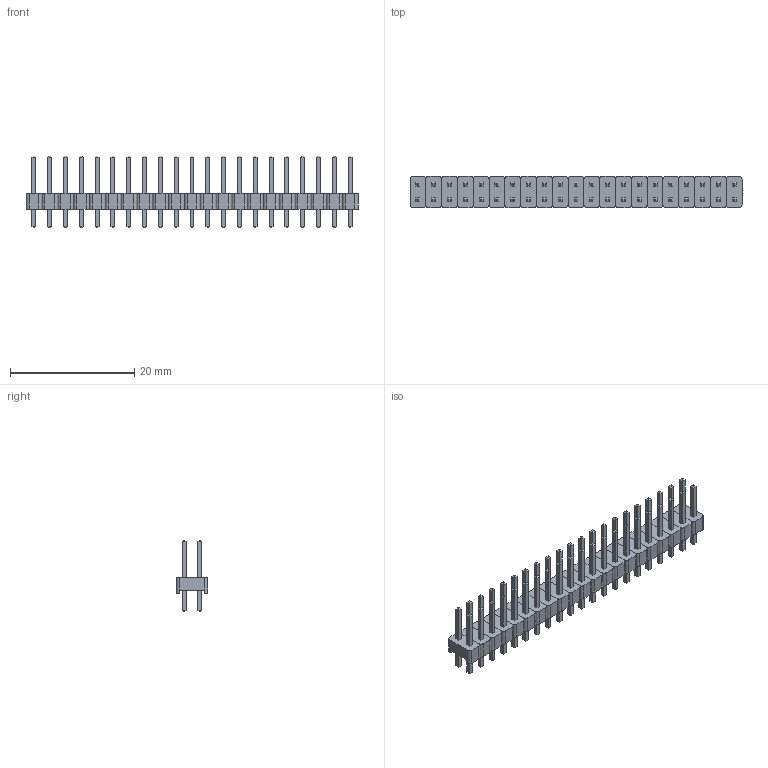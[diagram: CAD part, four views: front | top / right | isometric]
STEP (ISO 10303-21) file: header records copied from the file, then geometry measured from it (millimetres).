
FILE_DESCRIPTION(('FreeCAD Model'),'2;1');
FILE_NAME('Open CASCADE Shape Model','2022-04-06T16:01:37',( 'Engenharia Metaltex'),('Metaltex'), 'Open CASCADE STEP processor 7.5','FreeCAD','Unknown');
FILE_SCHEMA(('AUTOMOTIVE_DESIGN { 1 0 10303 214 1 1 1 1 }'));
Length unit declared in the file: millimetre
Products named in the file (85): BPDC; 21; Base020; Pino041; Pino042; 1; Base; Pino1; Pino2; 2; Base001; Pino003; Pino004; 3; Base002; Pino006; Pino005; 4; Base003; Pino008; Pino007; 5; Base004; Pino009; Pino010; 6; Base005; Pino012; Pino011; 7; Base006; Pino013; Pino014; 8; Base007; Pino015; Pino016; 9; Base008; Pino017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
Assembly tree (84 placements, depth 3):
  BPDC
    21
      Base020
      Pino041
      Pino042
    1
      Base
      Pino1
      Pino2
    2
      Base001
      Pino003
      Pino004
    3
      Base002
      Pino006
      Pino005
    4
      Base003
      Pino008
      Pino007
    5
      Base004
      Pino009
      Pino010
    6
      Base005
      Pino012
      Pino011
    7
      Base006
      Pino013
      Pino014
    8
      Base007
      Pino015
      Pino016
    9
      Base008
      Pino017
      Pino018
    10
      Base009
      Pino019
      Pino020
    11
      Base010
      Pino021
      Pino022
    12
      Base011
      Pino023
      Pino024
    13
      Base012
      Pino025
      Pino026
    14
      Base013
      Pino027
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Bounding box: 53.34 x 5.08 x 11.54 mm (x, y, z)
Volume: 733.4 mm3; surface area: 2701.3 mm2
Topology: 63 solids, 63 shells, 1050 faces, 2436 edges, 1512 vertices
Faces by surface type: plane 966, cylinder 84
Entity records: 63019 total; most frequent: CARTESIAN_POINT 10459, DIRECTION 9662, LINE 6972, VECTOR 6972, ORIENTED_EDGE 4872, PCURVE 4872, DEFINITIONAL_REPRESENTATION 4872, EDGE_CURVE 2436
